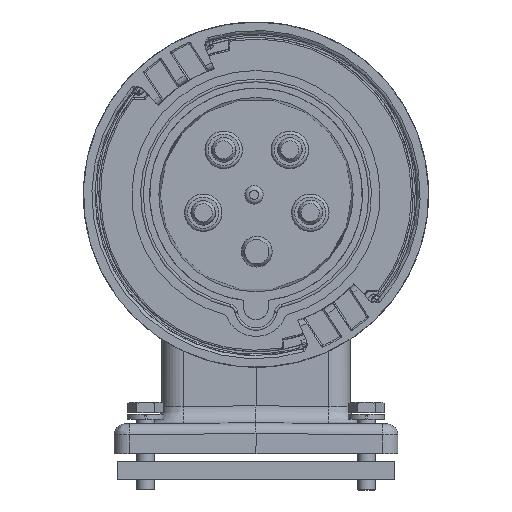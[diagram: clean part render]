
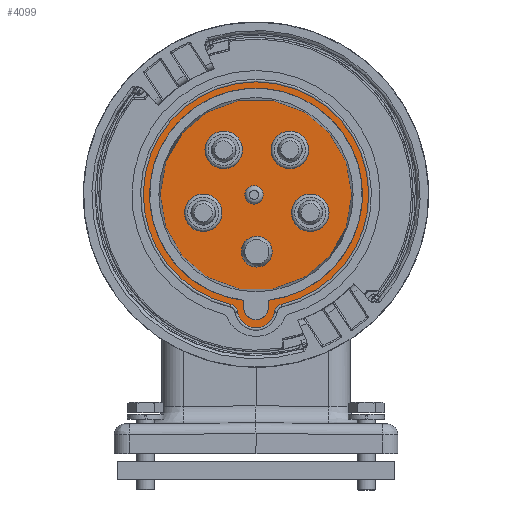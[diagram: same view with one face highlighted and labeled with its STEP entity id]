
A CAD part, front view. The second image highlights one B-rep face of the part: STEP entity #4099.
In plain terms, the highlighted planar face has unit normal (0, -1, 0).
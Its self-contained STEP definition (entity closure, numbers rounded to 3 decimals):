
#974=PLANE('',#15575);
#4099=ADVANCED_FACE('',(#4793),#974,.T.);
#4793=FACE_OUTER_BOUND('',#5317,.T.);
#5317=EDGE_LOOP('',(#8923,#8924,#8925,#8926));
#8923=ORIENTED_EDGE('',*,*,#12836,.T.);
#8924=ORIENTED_EDGE('',*,*,#12837,.T.);
#8925=ORIENTED_EDGE('',*,*,#12838,.T.);
#8926=ORIENTED_EDGE('',*,*,#12839,.T.);
#11145=VERTEX_POINT('',#27057);
#11146=VERTEX_POINT('',#27058);
#11147=VERTEX_POINT('',#27060);
#11148=VERTEX_POINT('',#27062);
#12836=EDGE_CURVE('',#11145,#11146,#14199,.T.);
#12837=EDGE_CURVE('',#11146,#11147,#14200,.T.);
#12838=EDGE_CURVE('',#11147,#11148,#14201,.T.);
#12839=EDGE_CURVE('',#11148,#11145,#14202,.T.);
#14199=CIRCLE('',#15571,2.866);
#14200=CIRCLE('',#15572,36.567);
#14201=CIRCLE('',#15573,2.866);
#14202=CIRCLE('',#15574,6.067);
#15571=AXIS2_PLACEMENT_3D('',#27056,#17549,#17550);
#15572=AXIS2_PLACEMENT_3D('',#27059,#17551,#17552);
#15573=AXIS2_PLACEMENT_3D('',#27061,#17553,#17554);
#15574=AXIS2_PLACEMENT_3D('',#27063,#17555,#17556);
#15575=AXIS2_PLACEMENT_3D('',#27064,#17557,#17558);
#17549=DIRECTION('',(0.,1.,0.));
#17550=DIRECTION('',(-0.989,0.,0.149));
#17551=DIRECTION('',(0.,-1.,0.));
#17552=DIRECTION('',(0.224,0.,-0.975));
#17553=DIRECTION('',(0.,1.,0.));
#17554=DIRECTION('',(0.224,0.,0.975));
#17555=DIRECTION('',(0.,-1.,0.));
#17556=DIRECTION('',(-0.989,0.,-0.149));
#17557=DIRECTION('',(0.,-1.,0.));
#17558=DIRECTION('',(-1.,0.,0.));
#27056=CARTESIAN_POINT('',(8.833,-2.8,-19.031));
#27057=CARTESIAN_POINT('',(5.999,-2.8,-18.604));
#27058=CARTESIAN_POINT('',(8.191,-2.8,-16.238));
#27059=CARTESIAN_POINT('',(0.,-2.8,19.4));
#27060=CARTESIAN_POINT('',(-8.191,-2.8,-16.238));
#27061=CARTESIAN_POINT('',(-8.833,-2.8,-19.031));
#27062=CARTESIAN_POINT('',(-5.999,-2.8,-18.604));
#27063=CARTESIAN_POINT('',(0.,-2.8,-17.7));
#27064=CARTESIAN_POINT('',(-40.261,-2.8,-26.611));
